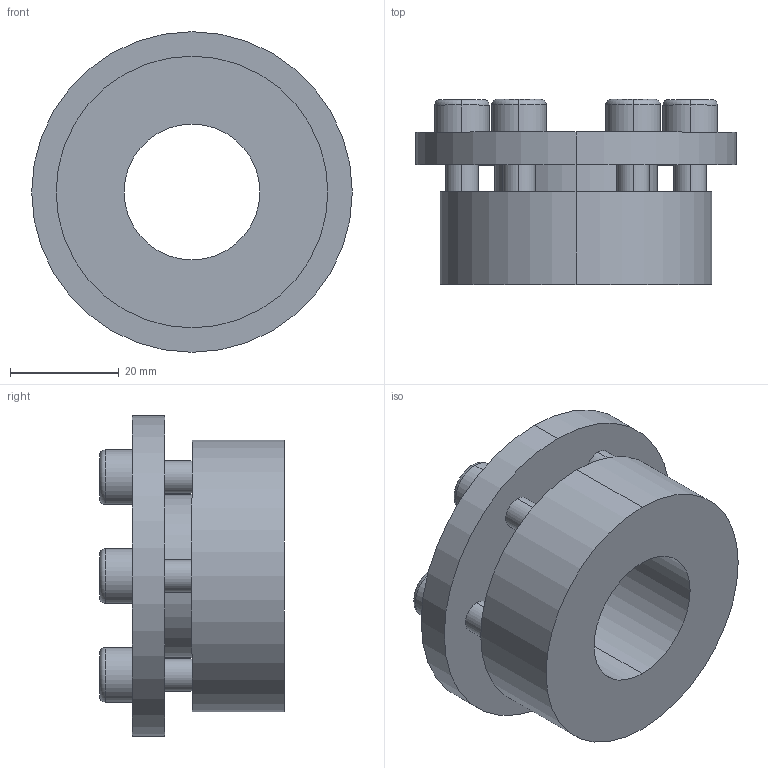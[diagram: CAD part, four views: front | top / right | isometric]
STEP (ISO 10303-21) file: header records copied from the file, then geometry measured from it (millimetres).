
FILE_DESCRIPTION (( 'STEP AP203' ), '1' );
FILE_NAME ('PL-H6 25-50.STEP', '2021-10-23T01:34:52', ( '' ), ( '' ), 'SwSTEP 2.0', 'SolidWorks 2018', '' );
FILE_SCHEMA (( 'CONFIG_CONTROL_DESIGN' ));
Length unit declared in the file: millimetre
Products named in the file (1): PL-H6 25-50
Bounding box: 59 x 34 x 59 mm (x, y, z)
Volume: 42820.4 mm3; surface area: 15037.7 mm2
Topology: 1 solids, 1 shells, 96 faces, 228 edges, 148 vertices
Faces by surface type: plane 52, cylinder 32, torus 12
Entity records: 2889 total; most frequent: DIRECTION 510, CARTESIAN_POINT 473, ORIENTED_EDGE 456, EDGE_CURVE 228, AXIS2_PLACEMENT_3D 185, VERTEX_POINT 148, VECTOR 140, LINE 140
